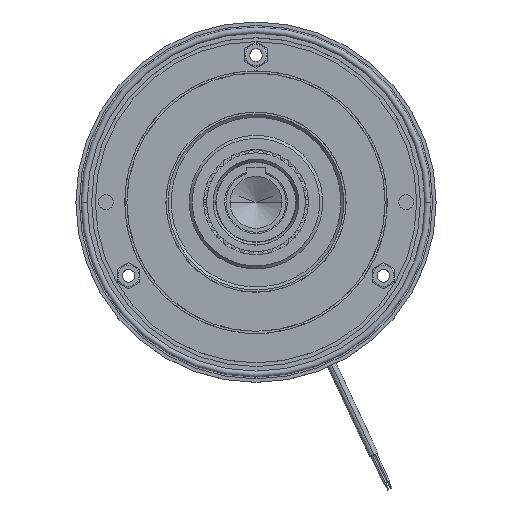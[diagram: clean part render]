
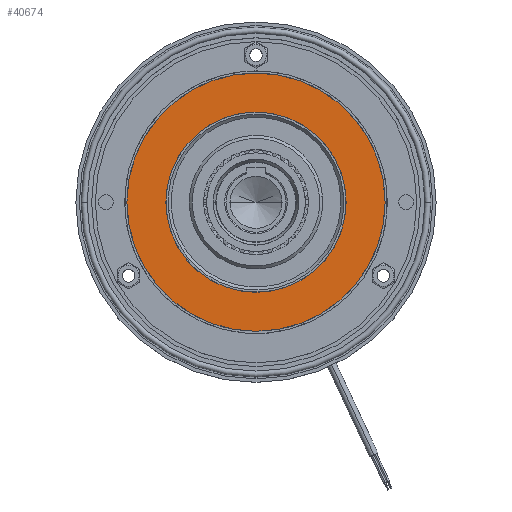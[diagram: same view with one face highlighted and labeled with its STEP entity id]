
A CAD part, top view. The second image highlights one B-rep face of the part: STEP entity #40674.
In plain terms, the highlighted planar face has unit normal (0, 0, 1) as drawn and (1, 0, 0) by its records, which use the part's own axes.
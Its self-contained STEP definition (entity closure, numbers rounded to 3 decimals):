
#11 = ORIENTED_EDGE ( 'NONE', *, *, #4460, .F. ) ;
#1833 = AXIS2_PLACEMENT_3D ( 'NONE', #15094, #37731, #8160 ) ;
#2730 = DIRECTION ( 'NONE',  ( 1., 0., 0. ) ) ;
#4311 = EDGE_CURVE ( 'NONE', #25691, #33827, #31372, .T. ) ;
#4421 = ORIENTED_EDGE ( 'NONE', *, *, #10093, .T. ) ;
#4460 = EDGE_CURVE ( 'NONE', #15156, #39074, #14175, .T. ) ;
#5761 = ORIENTED_EDGE ( 'NONE', *, *, #4311, .T. ) ;
#7735 = EDGE_LOOP ( 'NONE', ( #11, #14750 ) ) ;
#8160 = DIRECTION ( 'NONE',  ( 0., -0.996, -0.093 ) ) ;
#9465 = FACE_BOUND ( 'NONE', #7735, .T. ) ;
#10093 = EDGE_CURVE ( 'NONE', #33827, #25691, #12467, .T. ) ;
#12066 = DIRECTION ( 'NONE',  ( 0., -0.996, -0.093 ) ) ;
#12139 = EDGE_LOOP ( 'NONE', ( #4421, #5761 ) ) ;
#12467 = CIRCLE ( 'NONE', #16007, 86. ) ;
#13353 = CARTESIAN_POINT ( 'NONE',  ( 5., 0., -86. ) ) ;
#13718 = DIRECTION ( 'NONE',  ( 1., 0., 0. ) ) ;
#14175 = CIRCLE ( 'NONE', #36903, 60.05 ) ;
#14750 = ORIENTED_EDGE ( 'NONE', *, *, #16078, .F. ) ;
#15094 = CARTESIAN_POINT ( 'NONE',  ( 5., 0., 0. ) ) ;
#15156 = VERTEX_POINT ( 'NONE', #26844 ) ;
#16007 = AXIS2_PLACEMENT_3D ( 'NONE', #25693, #21606, #37993 ) ;
#16078 = EDGE_CURVE ( 'NONE', #39074, #15156, #28723, .T. ) ;
#20092 = CARTESIAN_POINT ( 'NONE',  ( 5., 0., -60.05 ) ) ;
#21606 = DIRECTION ( 'NONE',  ( 1., 0., 0. ) ) ;
#22215 = DIRECTION ( 'NONE',  ( 1., 0., 0. ) ) ;
#24492 = CARTESIAN_POINT ( 'NONE',  ( 5., 0., 0. ) ) ;
#25691 = VERTEX_POINT ( 'NONE', #13353 ) ;
#25693 = CARTESIAN_POINT ( 'NONE',  ( 5., 0., 0. ) ) ;
#26505 = CARTESIAN_POINT ( 'NONE',  ( 5., 0., 86. ) ) ;
#26844 = CARTESIAN_POINT ( 'NONE',  ( 5., 0., 60.05 ) ) ;
#28723 = CIRCLE ( 'NONE', #1833, 60.05 ) ;
#29044 = CARTESIAN_POINT ( 'NONE',  ( 5., 0., 0. ) ) ;
#29309 = AXIS2_PLACEMENT_3D ( 'NONE', #29044, #2730, #29874 ) ;
#29874 = DIRECTION ( 'NONE',  ( 0., -0.996, -0.093 ) ) ;
#31372 = CIRCLE ( 'NONE', #29309, 86. ) ;
#32387 = AXIS2_PLACEMENT_3D ( 'NONE', #42479, #22215, #12066 ) ;
#33543 = DIRECTION ( 'NONE',  ( 0., -0.996, -0.093 ) ) ;
#33827 = VERTEX_POINT ( 'NONE', #26505 ) ;
#36903 = AXIS2_PLACEMENT_3D ( 'NONE', #24492, #13718, #33543 ) ;
#37731 = DIRECTION ( 'NONE',  ( 1., 0., 0. ) ) ;
#37993 = DIRECTION ( 'NONE',  ( 0., -0.996, -0.093 ) ) ;
#39023 = FACE_OUTER_BOUND ( 'NONE', #12139, .T. ) ;
#39074 = VERTEX_POINT ( 'NONE', #20092 ) ;
#39242 = PLANE ( 'NONE',  #32387 ) ;
#40674 = ADVANCED_FACE ( 'NONE', ( #39023, #9465 ), #39242, .T. ) ;
#42479 = CARTESIAN_POINT ( 'NONE',  ( 5., 8.01, -85.626 ) ) ;
